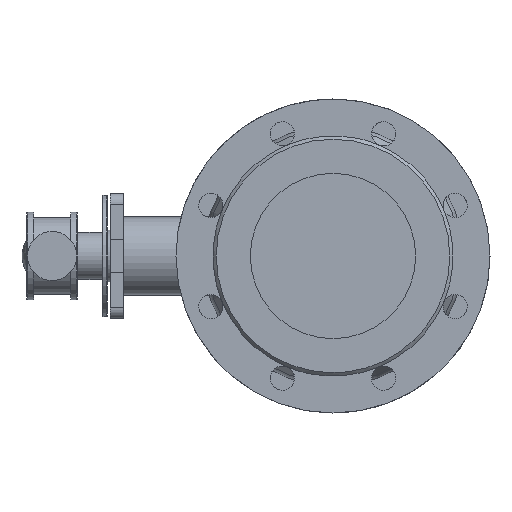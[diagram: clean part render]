
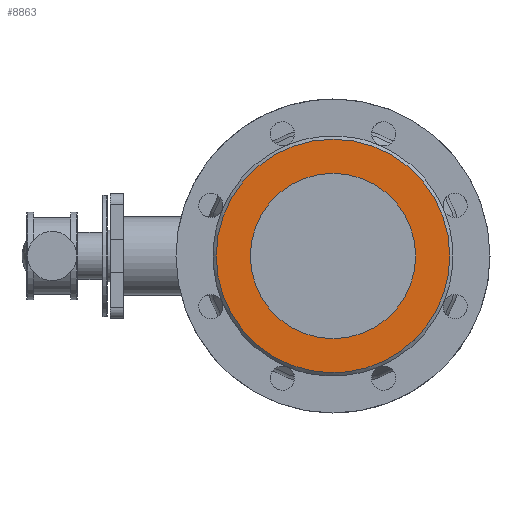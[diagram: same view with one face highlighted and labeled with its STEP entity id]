
A CAD part, left-side view. The second image highlights one B-rep face of the part: STEP entity #8863.
In plain terms, the highlighted conical face has half-angle 90 degrees and reference radius 90.5 mm.
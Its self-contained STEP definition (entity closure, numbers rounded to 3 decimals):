
#8863=ADVANCED_FACE('',(#15988,#15990),#15992,.T.);
#15988=FACE_BOUND('',#15989,.T.);
#15989=EDGE_LOOP('',(#21863,#21864,#21865));
#15990=FACE_BOUND('',#15991,.T.);
#15991=EDGE_LOOP('',(#21866,#21867));
#15992=CONICAL_SURFACE('',#15993,90.5,1.571);
#15993=AXIS2_PLACEMENT_3D('',#15994,#15995,#15996);
#15994=CARTESIAN_POINT('',(7436.818,4729.202,0.));
#15995=DIRECTION('',(1.,0.,0.));
#15996=DIRECTION('',(0.,-1.,0.));
#21863=ORIENTED_EDGE('',*,*,#24918,.F.);
#21864=ORIENTED_EDGE('',*,*,#24919,.F.);
#21865=ORIENTED_EDGE('',*,*,#24920,.F.);
#21866=ORIENTED_EDGE('',*,*,#24914,.T.);
#21867=ORIENTED_EDGE('',*,*,#24913,.T.);
#24913=EDGE_CURVE('',#29623,#29624,#29625,.T.);
#24914=EDGE_CURVE('',#29624,#29623,#29626,.T.);
#24918=EDGE_CURVE('',#29633,#29634,#29635,.T.);
#24919=EDGE_CURVE('',#29636,#29633,#29637,.T.);
#24920=EDGE_CURVE('',#29634,#29636,#29638,.T.);
#29623=VERTEX_POINT('',#42990);
#29624=VERTEX_POINT('',#42991);
#29625=CIRCLE('',#42992,75.);
#29626=CIRCLE('',#42996,75.);
#29633=VERTEX_POINT('',#43015);
#29634=VERTEX_POINT('',#43016);
#29635=CIRCLE('',#43017,106.);
#29636=VERTEX_POINT('',#43021);
#29637=CIRCLE('',#43022,106.);
#29638=CIRCLE('',#43026,106.);
#42990=CARTESIAN_POINT('',(7436.818,4654.202,0.));
#42991=CARTESIAN_POINT('',(7436.818,4804.202,0.));
#42992=AXIS2_PLACEMENT_3D('',#42993,#42994,#42995);
#42993=CARTESIAN_POINT('',(7436.818,4729.202,0.));
#42994=DIRECTION('',(1.,0.,0.));
#42995=DIRECTION('',(0.,-1.,0.));
#42996=AXIS2_PLACEMENT_3D('',#42997,#42998,#42999);
#42997=CARTESIAN_POINT('',(7436.818,4729.202,0.));
#42998=DIRECTION('',(1.,0.,0.));
#42999=DIRECTION('',(0.,1.,0.));
#43015=CARTESIAN_POINT('',(7436.818,4749.919,-103.956));
#43016=CARTESIAN_POINT('',(7436.818,4835.203,0.));
#43017=AXIS2_PLACEMENT_3D('',#43018,#43019,#43020);
#43018=CARTESIAN_POINT('',(7436.818,4729.202,0.));
#43019=DIRECTION('',(1.,0.,0.));
#43020=DIRECTION('',(0.,0.195,-0.981));
#43021=CARTESIAN_POINT('',(7436.818,4623.202,0.));
#43022=AXIS2_PLACEMENT_3D('',#43023,#43024,#43025);
#43023=CARTESIAN_POINT('',(7436.818,4729.202,0.));
#43024=DIRECTION('',(1.,0.,0.));
#43025=DIRECTION('',(0.,-1.,0.));
#43026=AXIS2_PLACEMENT_3D('',#43027,#43028,#43029);
#43027=CARTESIAN_POINT('',(7436.818,4729.202,0.));
#43028=DIRECTION('',(1.,0.,0.));
#43029=DIRECTION('',(0.,1.,0.));
